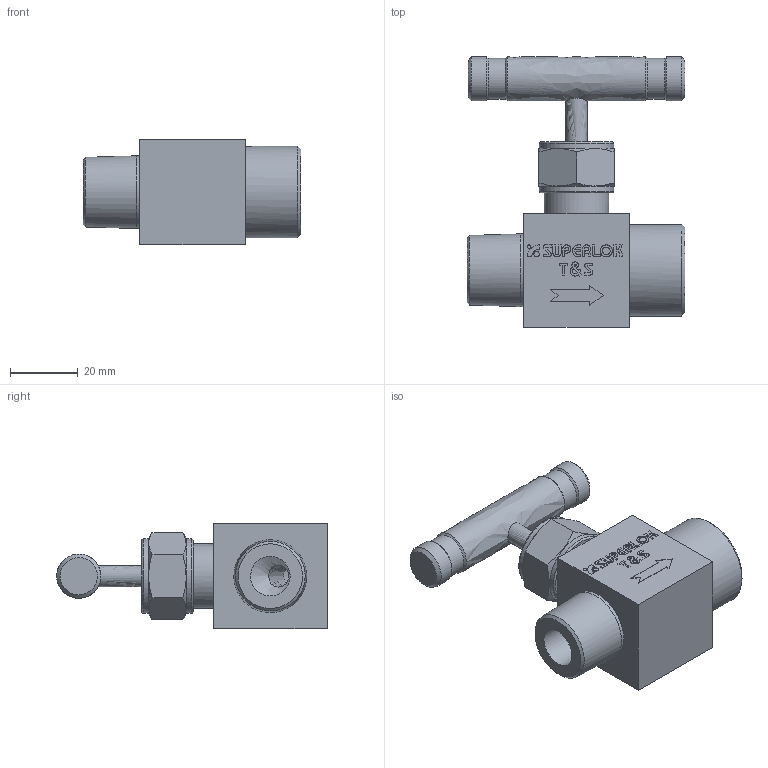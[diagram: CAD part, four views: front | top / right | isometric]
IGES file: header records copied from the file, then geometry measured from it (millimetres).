
Global section: file name: SBNV2-M8N-F8N; native system: Autodesk Inventor 2016; preprocessor: unknown; author: HP; date: 20161008.113213; units: millimetre
Bounding box: 64.3 x 79.8 x 31.1 mm (x, y, z)
Volume: 56570.9 mm3; surface area: 15126.7 mm2
Topology: 1 solids, 1 shells, 200 faces, 540 edges, 365 vertices
Faces by surface type: bspline 200
